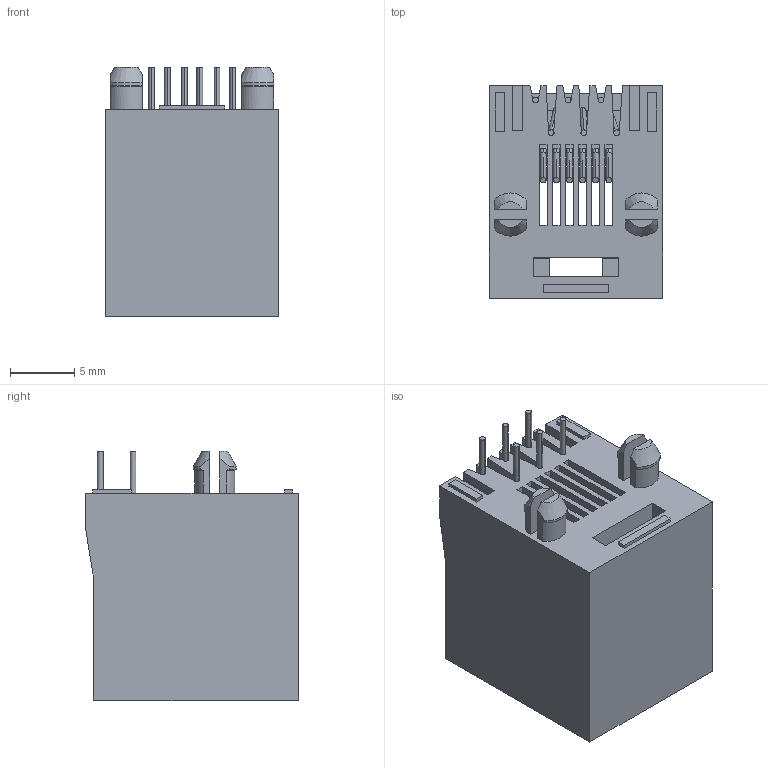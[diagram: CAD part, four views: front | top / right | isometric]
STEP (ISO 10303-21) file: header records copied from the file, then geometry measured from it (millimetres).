
FILE_DESCRIPTION((''),'2;1');
FILE_NAME('DGKYD52221166IWA1DY1017','2023-07-20T14:26:26',('Administrator'),(''),'CREO PARAMETRIC BY PTC INC, 2019010','CREO PARAMETRIC BY PTC INC, 2019010','');
FILE_SCHEMA(('CONFIG_CONTROL_DESIGN'));
Length unit declared in the file: millimetre
Products named in the file (1): DGKYD52221166IWA1DY1017
Bounding box: 13.46 x 16.5 x 19.38 mm (x, y, z)
Volume: 1917.8 mm3; surface area: 2697.3 mm2
Topology: 1 solids, 1 shells, 362 faces, 1087 edges, 717 vertices
Faces by surface type: plane 250, cylinder 80, torus 24, cone 8
Entity records: 12490 total; most frequent: CARTESIAN_POINT 2594, ORIENTED_EDGE 2174, DIRECTION 1938, EDGE_CURVE 1087, VECTOR 796, LINE 796, VERTEX_POINT 717, AXIS2_PLACEMENT_3D 571
